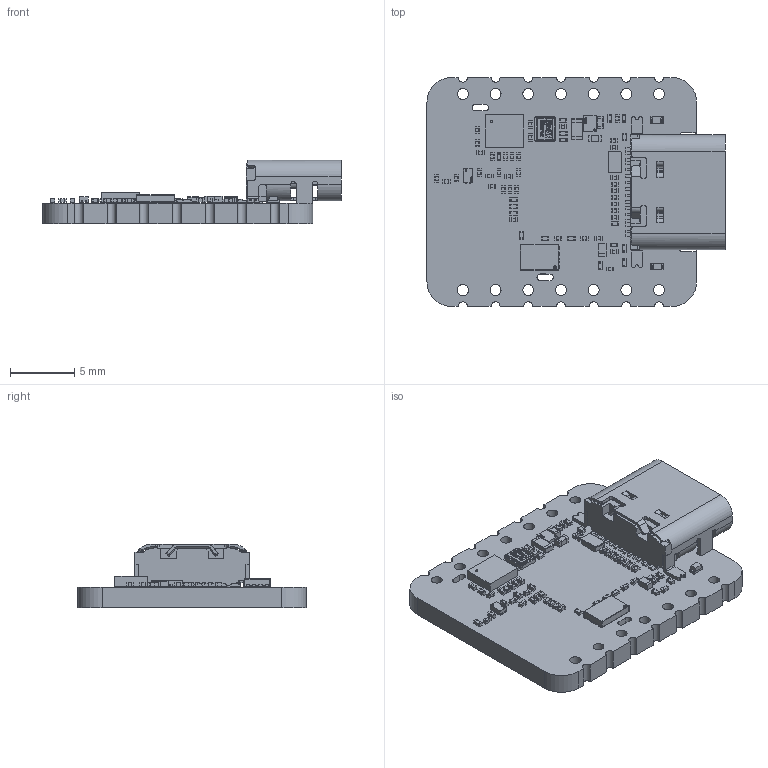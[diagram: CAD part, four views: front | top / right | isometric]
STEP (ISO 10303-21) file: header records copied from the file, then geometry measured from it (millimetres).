
FILE_DESCRIPTION(('KiCad electronic assembly'),'2;1');
FILE_NAME('XIAO_MGM240S_KICAD_Prj.step','2024-07-30T16:14:47',('Pcbnew') ,('Kicad'),'Open CASCADE STEP processor 7.7','KiCad to STEP converter' ,'Unknown');
FILE_SCHEMA(('AUTOMOTIVE_DESIGN { 1 0 10303 214 1 1 1 1 }'));
Length unit declared in the file: millimetre
Products named in the file (33): XIAO_MGM240S_KICAD_Prj 1; C_0201_0603Metric; R_0201_0603Metric; L_0201_0603Metric; LED_0402_1005Metric; USB-31C-F-16P-L7.35; TYPE-C_16P_; R0603; Part 4; Part 3; Part 2; Part 1; USON8_3x2x0_6mm; EB6ED80E-EAC8-44A4-AAF6-322E8D91BB5F; DFN-1006-2; C_0402_1005Metric; Crystal_SMD_MicroCrystal_CM9V-T1A-2Pin_1.6x1.0mm; MicroCrystal_CM9V_T1A; Crystal_SMD_SeikoEpson_FA238V-4Pin_2.0x1.6mm; 06DA10BF-5308-4739-B1F2-25DD20B2B3A8; LGA-14_3x2.5mm_P0.5mm_LayoutBorder3x4y; LGA_14_3x25mm_P05mm_LayoutBorder3x4y; BGA6-0.35-0.85X1.2X0.4MM; PCBModel; DFN6-0.4-1.1X0.7X0.45MM; XIAO_MGM240S_KICAD_Prj_PCB
Assembly tree (87 placements, depth 3):
  XIAO_MGM240S_KICAD_Prj 1
    C_0201_0603Metric  x32
      C_0201_0603Metric
    R_0201_0603Metric  x18
      R_0201_0603Metric
    L_0201_0603Metric  x6
      L_0201_0603Metric
    LED_0402_1005Metric  x2
      LED_0402_1005Metric
    USB-31C-F-16P-L7.35
      TYPE-C_16P_
    R0603
      Part 4
      Part 3
      Part 2
      Part 1
    USON8_3x2x0_6mm
      EB6ED80E-EAC8-44A4-AAF6-322E8D91BB5F
    DFN-1006-2
      DFN-1006-2
    C_0402_1005Metric  x2
      C_0402_1005Metric
    Crystal_SMD_MicroCrystal_CM9V-T1A-2Pin_1.6x1.0mm
      MicroCrystal_CM9V_T1A
    Crystal_SMD_SeikoEpson_FA238V-4Pin_2.0x1.6mm
      06DA10BF-5308-4739-B1F2-25DD20B2B3A8
    LGA-14_3x2.5mm_P0.5mm_LayoutBorder3x4y
      LGA_14_3x25mm_P05mm_LayoutBorder3x4y
    BGA6-0.35-0.85X1.2X0.4MM
      PCBModel
    DFN6-0.4-1.1X0.7X0.45MM
      PCBModel
    XIAO_MGM240S_KICAD_Prj_PCB
Bounding box: 23.17 x 17.78 x 4.93 mm (x, y, z)
Volume: 700.3 mm3; surface area: 1541.3 mm2
Topology: 77 solids, 78 shells, 3602 faces, 9661 edges, 6351 vertices
Faces by surface type: plane 2303, cylinder 969, bspline 278, sphere 24, cone 22, torus 6
Full cylindrical faces by diameter (mm): 0.2 x1, 0.65 x2, 0.85 x13, 0.889 x1
Entity records: 77080 total; most frequent: CARTESIAN_POINT 19975, ORIENTED_EDGE 11366, DIRECTION 9622, EDGE_CURVE 5683, LINE 4206, VECTOR 4206, VERTEX_POINT 3741, AXIS2_PLACEMENT_3D 2708
